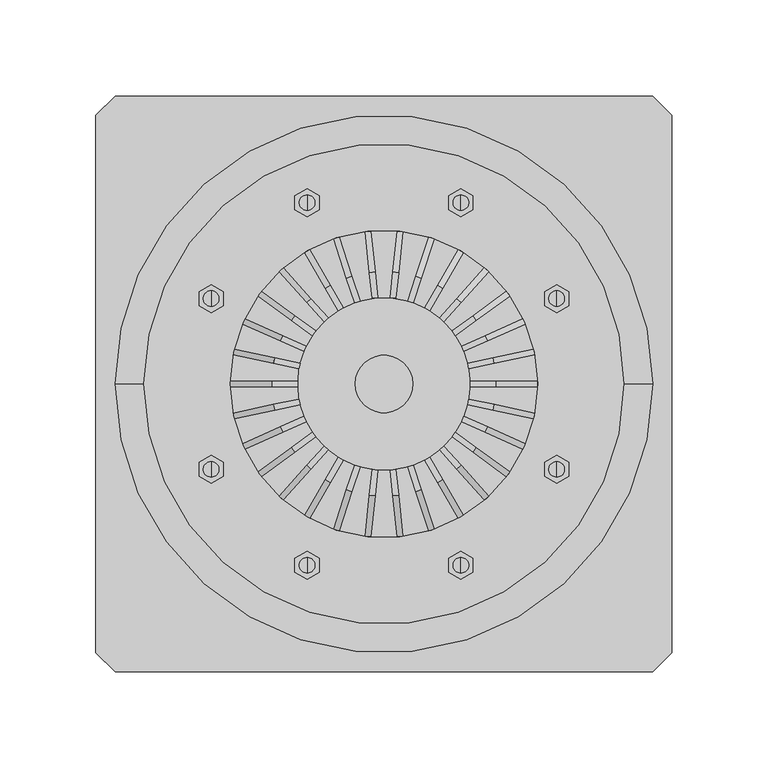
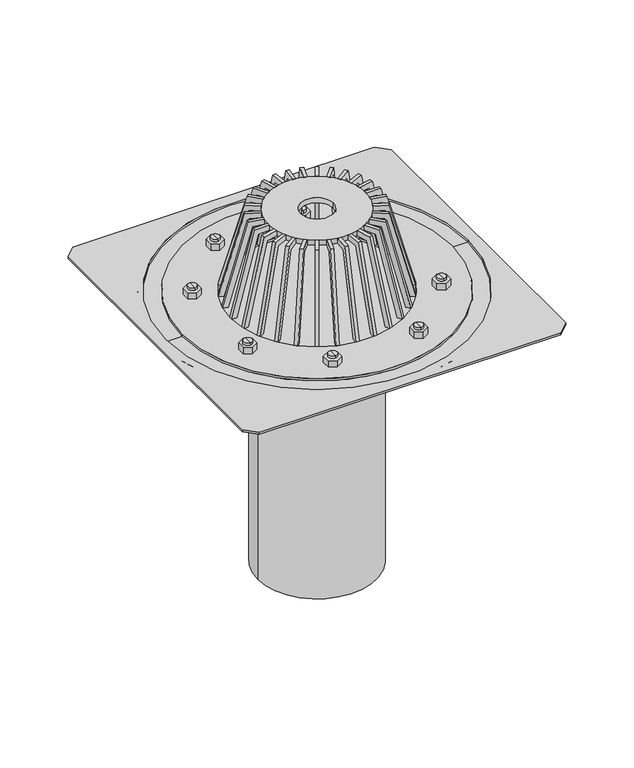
"""IFC4 building model written with IfcOpenShell, lengths in millimetres: sanitary terminal geometry, NLRS_52_PF_LB_trechter met bevestigingsflens, voor dakbedekkingsfolies_geb : d110 - 7L/s."""

from ifc_helpers import new_model, si_unit, point, frame, origin, origin_with_axes, origin_2d, place, context, project, spatial, polyline, circle_curve, trimmed, segment, composite_curve, outline, extrude, source, transform, mapped, element, save
from ifc_brep_helpers import plane_surface, cylinder_surface, revolved_surface, advanced_brep


def sanitary_terminal_2a380be2(model_context):
    return source(origin(), model_context, "Body", "SolidModel", [
        extrude(outline(polyline([(96.3281945, -40.8076438), (96.3281945, -48.1148134), (90.0, -51.7683982), (83.6718055, -48.1148134), (83.6718055, -40.8076438), (90.0, -37.154059), (96.3281945, -40.8076438)])), origin_with_axes(), (0.0, 0.0, 1.0), 6.2514432),
        advanced_brep(
        [(90.0, -40.3992708, 8.7618554), (90.0, -48.5231865, 8.7618554), (90.0, -48.5231865, 0.0), (90.0, -40.3992708, 0.0), (90.0, -44.4612286, 8.7618554), (90.0, -44.4612286, 0.0)],
        [
            (0, 1, circle_curve(frame((90.0, -44.4612286, 8.7618554), z_axis=(0.0, 0.0, -1.0), x_axis=(0.0, -1.0, 0.0)), 4.0619578)),
            (1, 2),
            (2, 3, circle_curve(frame((90.0, -44.4612286, 0.0), z_axis=(0.0, 0.0, 1.0), x_axis=(0.0, -1.0, 0.0)), 4.0619578)),
            (3, 0),
            (1, 0, circle_curve(frame((90.0, -44.4612286, 8.7618554), z_axis=(0.0, 0.0, -1.0), x_axis=(0.0, -1.0, 0.0)), 4.0619578)),
            (3, 2, circle_curve(frame((90.0, -44.4612286, 0.0), z_axis=(0.0, 0.0, 1.0), x_axis=(0.0, -1.0, 0.0)), 4.0619578)),
            (4, 1),
            (0, 4),
            (2, 5),
            (5, 3),
        ],
        [
            cylinder_surface(frame((90.0, -44.4612286, 15.0), z_axis=(0.0, 0.0, 1.0), x_axis=(0.0, -1.0, 0.0)), 4.0619578),
            plane_surface(frame((90.0, -44.4612286, 8.7618554), z_axis=(0.0, 0.0, 1.0), x_axis=(0.0, -1.0, 0.0))),
            plane_surface(frame((90.0, -44.4612286, 0.0), z_axis=(0.0, 0.0, -1.0), x_axis=(0.0, -1.0, 0.0))),
        ],
        [
            (0, [[1, 2, 3, 4]]),
            (0, [[5, -4, 6, -2]]),
            (1, [[7, -1, 8]]),
            (1, [[-8, -5, -7]]),
            (2, [[-3, 9, 10]]),
            (2, [[-6, -10, -9]]),
        ],
    ),
        extrude(outline(polyline([(96.3281945, 40.8076438), (90.0, 37.154059), (83.6718055, 40.8076438), (83.6718055, 48.1148134), (90.0, 51.7683982), (96.3281945, 48.1148134), (96.3281945, 40.8076438)])), origin_with_axes(), (0.0, 0.0, 1.0), 6.2514432),
        advanced_brep(
        [(90.0, 40.3992708, 0.0), (90.0, 48.5231865, 0.0), (90.0, 48.5231865, 8.7618554), (90.0, 40.3992708, 8.7618554), (90.0, 44.4612286, 8.7618554), (90.0, 44.4612286, 0.0)],
        [
            (0, 1, circle_curve(frame((90.0, 44.4612286, 0.0), z_axis=(0.0, 0.0, 1.0), x_axis=(0.0, 1.0, 0.0)), 4.0619578)),
            (1, 2),
            (2, 3, circle_curve(frame((90.0, 44.4612286, 8.7618554), z_axis=(0.0, 0.0, -1.0), x_axis=(0.0, 1.0, 0.0)), 4.0619578)),
            (3, 0),
            (1, 0, circle_curve(frame((90.0, 44.4612286, 0.0), z_axis=(0.0, 0.0, 1.0), x_axis=(0.0, 1.0, 0.0)), 4.0619578)),
            (3, 2, circle_curve(frame((90.0, 44.4612286, 8.7618554), z_axis=(0.0, 0.0, -1.0), x_axis=(0.0, 1.0, 0.0)), 4.0619578)),
            (2, 4),
            (4, 3),
            (5, 1),
            (0, 5),
        ],
        [
            cylinder_surface(frame((90.0, 44.4612286, 15.0), z_axis=(0.0, 0.0, -1.0), x_axis=(0.0, 1.0, 0.0)), 4.0619578),
            plane_surface(frame((90.0, 44.4612286, 8.7618554), z_axis=(0.0, 0.0, 1.0), x_axis=(0.0, 1.0, 0.0))),
            plane_surface(frame((90.0, 44.4612286, 0.0), z_axis=(0.0, 0.0, -1.0), x_axis=(0.0, 1.0, 0.0))),
        ],
        [
            (0, [[1, 2, 3, 4]]),
            (0, [[5, -4, 6, -2]]),
            (1, [[-3, 7, 8]]),
            (1, [[-6, -8, -7]]),
            (2, [[9, -1, 10]]),
            (2, [[-10, -5, -9]]),
        ],
    ),
        extrude(outline(polyline([(46.3417212, -90.7941171), (46.3417212, -98.1012867), (40.0135267, -101.7548715), (33.6853322, -98.1012867), (33.6853322, -90.7941171), (40.0135267, -87.1405323), (46.3417212, -90.7941171)])), origin_with_axes(), (0.0, 0.0, 1.0), 6.2514432),
        advanced_brep(
        [(40.0135267, -90.385744, 8.7618554), (40.0135267, -98.5096597, 8.7618554), (40.0135267, -98.5096597, 0.0), (40.0135267, -90.385744, 0.0), (40.0135267, -94.4477019, 8.7618554), (40.0135267, -94.4477019, 0.0)],
        [
            (0, 1, circle_curve(frame((40.0135267, -94.4477019, 8.7618554), z_axis=(0.0, 0.0, -1.0), x_axis=(0.0, -1.0, 0.0)), 4.0619578)),
            (1, 2),
            (2, 3, circle_curve(frame((40.0135267, -94.4477019, 0.0), z_axis=(0.0, 0.0, 1.0), x_axis=(0.0, -1.0, 0.0)), 4.0619578)),
            (3, 0),
            (1, 0, circle_curve(frame((40.0135267, -94.4477019, 8.7618554), z_axis=(0.0, 0.0, -1.0), x_axis=(0.0, -1.0, 0.0)), 4.0619578)),
            (3, 2, circle_curve(frame((40.0135267, -94.4477019, 0.0), z_axis=(0.0, 0.0, 1.0), x_axis=(0.0, -1.0, 0.0)), 4.0619578)),
            (4, 1),
            (0, 4),
            (2, 5),
            (5, 3),
        ],
        [
            cylinder_surface(frame((40.0135267, -94.4477019, 15.0), z_axis=(0.0, 0.0, 1.0), x_axis=(0.0, -1.0, 0.0)), 4.0619578),
            plane_surface(frame((40.0135267, -94.4477019, 8.7618554), z_axis=(0.0, 0.0, 1.0), x_axis=(0.0, -1.0, 0.0))),
            plane_surface(frame((40.0135267, -94.4477019, 0.0), z_axis=(0.0, 0.0, -1.0), x_axis=(0.0, -1.0, 0.0))),
        ],
        [
            (0, [[1, 2, 3, 4]]),
            (0, [[5, -4, 6, -2]]),
            (1, [[7, -1, 8]]),
            (1, [[-8, -5, -7]]),
            (2, [[-3, 9, 10]]),
            (2, [[-6, -10, -9]]),
        ],
    ),
        extrude(outline(polyline([(-46.3417212, -90.7941171), (-40.0135267, -87.1405323), (-33.6853322, -90.7941171), (-33.6853322, -98.1012867), (-40.0135267, -101.7548715), (-46.3417212, -98.1012867), (-46.3417212, -90.7941171)])), origin_with_axes(), (0.0, 0.0, 1.0), 6.2514432),
        advanced_brep(
        [(-40.0135267, -90.385744, 0.0), (-40.0135267, -98.5096597, 0.0), (-40.0135267, -98.5096597, 8.7618554), (-40.0135267, -90.385744, 8.7618554), (-40.0135267, -94.4477019, 8.7618554), (-40.0135267, -94.4477019, 0.0)],
        [
            (0, 1, circle_curve(frame((-40.0135267, -94.4477019, 0.0), z_axis=(0.0, 0.0, 1.0), x_axis=(0.0, -1.0, 0.0)), 4.0619578)),
            (1, 2),
            (2, 3, circle_curve(frame((-40.0135267, -94.4477019, 8.7618554), z_axis=(0.0, 0.0, -1.0), x_axis=(0.0, -1.0, 0.0)), 4.0619578)),
            (3, 0),
            (1, 0, circle_curve(frame((-40.0135267, -94.4477019, 0.0), z_axis=(0.0, 0.0, 1.0), x_axis=(0.0, -1.0, 0.0)), 4.0619578)),
            (3, 2, circle_curve(frame((-40.0135267, -94.4477019, 8.7618554), z_axis=(0.0, 0.0, -1.0), x_axis=(0.0, -1.0, 0.0)), 4.0619578)),
            (2, 4),
            (4, 3),
            (5, 1),
            (0, 5),
        ],
        [
            cylinder_surface(frame((-40.0135267, -94.4477019, 15.0), z_axis=(0.0, 0.0, -1.0), x_axis=(0.0, -1.0, 0.0)), 4.0619578),
            plane_surface(frame((-40.0135267, -94.4477019, 8.7618554), z_axis=(0.0, 0.0, 1.0), x_axis=(0.0, -1.0, 0.0))),
            plane_surface(frame((-40.0135267, -94.4477019, 0.0), z_axis=(0.0, 0.0, -1.0), x_axis=(0.0, -1.0, 0.0))),
        ],
        [
            (0, [[1, 2, 3, 4]]),
            (0, [[5, -4, 6, -2]]),
            (1, [[-3, 7, 8]]),
            (1, [[-6, -8, -7]]),
            (2, [[9, -1, 10]]),
            (2, [[-10, -5, -9]]),
        ],
    ),
        extrude(outline(polyline([(-96.3281945, -40.8076438), (-90.0, -37.154059), (-83.6718055, -40.8076438), (-83.6718055, -48.1148134), (-90.0, -51.7683982), (-96.3281945, -48.1148134), (-96.3281945, -40.8076438)])), origin_with_axes(), (0.0, 0.0, 1.0), 6.2514432),
        advanced_brep(
        [(-90.0, -40.3992708, 0.0), (-90.0, -48.5231865, 0.0), (-90.0, -48.5231865, 8.7618554), (-90.0, -40.3992708, 8.7618554), (-90.0, -44.4612286, 8.7618554), (-90.0, -44.4612286, 0.0)],
        [
            (0, 1, circle_curve(frame((-90.0, -44.4612286, 0.0), z_axis=(0.0, 0.0, 1.0), x_axis=(0.0, -1.0, 0.0)), 4.0619578)),
            (1, 2),
            (2, 3, circle_curve(frame((-90.0, -44.4612286, 8.7618554), z_axis=(0.0, 0.0, -1.0), x_axis=(0.0, -1.0, 0.0)), 4.0619578)),
            (3, 0),
            (1, 0, circle_curve(frame((-90.0, -44.4612286, 0.0), z_axis=(0.0, 0.0, 1.0), x_axis=(0.0, -1.0, 0.0)), 4.0619578)),
            (3, 2, circle_curve(frame((-90.0, -44.4612286, 8.7618554), z_axis=(0.0, 0.0, -1.0), x_axis=(0.0, -1.0, 0.0)), 4.0619578)),
            (2, 4),
            (4, 3),
            (5, 1),
            (0, 5),
        ],
        [
            cylinder_surface(frame((-90.0, -44.4612286, 15.0), z_axis=(0.0, 0.0, -1.0), x_axis=(0.0, -1.0, 0.0)), 4.0619578),
            plane_surface(frame((-90.0, -44.4612286, 8.7618554), z_axis=(0.0, 0.0, 1.0), x_axis=(0.0, -1.0, 0.0))),
            plane_surface(frame((-90.0, -44.4612286, 0.0), z_axis=(0.0, 0.0, -1.0), x_axis=(0.0, -1.0, 0.0))),
        ],
        [
            (0, [[1, 2, 3, 4]]),
            (0, [[5, -4, 6, -2]]),
            (1, [[-3, 7, 8]]),
            (1, [[-6, -8, -7]]),
            (2, [[9, -1, 10]]),
            (2, [[-10, -5, -9]]),
        ],
    ),
        extrude(outline(polyline([(-96.3281945, 40.8076438), (-96.3281945, 48.1148134), (-90.0, 51.7683982), (-83.6718055, 48.1148134), (-83.6718055, 40.8076438), (-90.0, 37.154059), (-96.3281945, 40.8076438)])), origin_with_axes(), (0.0, 0.0, 1.0), 6.2514432),
        advanced_brep(
        [(-90.0, 40.3992708, 8.7618554), (-90.0, 48.5231865, 8.7618554), (-90.0, 48.5231865, 0.0), (-90.0, 40.3992708, 0.0), (-90.0, 44.4612286, 8.7618554), (-90.0, 44.4612286, 0.0)],
        [
            (0, 1, circle_curve(frame((-90.0, 44.4612286, 8.7618554), z_axis=(0.0, 0.0, -1.0), x_axis=(0.0, 1.0, 0.0)), 4.0619578)),
            (1, 2),
            (2, 3, circle_curve(frame((-90.0, 44.4612286, 0.0), z_axis=(0.0, 0.0, 1.0), x_axis=(0.0, 1.0, 0.0)), 4.0619578)),
            (3, 0),
            (1, 0, circle_curve(frame((-90.0, 44.4612286, 8.7618554), z_axis=(0.0, 0.0, -1.0), x_axis=(0.0, 1.0, 0.0)), 4.0619578)),
            (3, 2, circle_curve(frame((-90.0, 44.4612286, 0.0), z_axis=(0.0, 0.0, 1.0), x_axis=(0.0, 1.0, 0.0)), 4.0619578)),
            (4, 1),
            (0, 4),
            (2, 5),
            (5, 3),
        ],
        [
            cylinder_surface(frame((-90.0, 44.4612286, 15.0), z_axis=(0.0, 0.0, 1.0), x_axis=(0.0, 1.0, 0.0)), 4.0619578),
            plane_surface(frame((-90.0, 44.4612286, 8.7618554), z_axis=(0.0, 0.0, 1.0), x_axis=(0.0, 1.0, 0.0))),
            plane_surface(frame((-90.0, 44.4612286, 0.0), z_axis=(0.0, 0.0, -1.0), x_axis=(0.0, 1.0, 0.0))),
        ],
        [
            (0, [[1, 2, 3, 4]]),
            (0, [[5, -4, 6, -2]]),
            (1, [[7, -1, 8]]),
            (1, [[-8, -5, -7]]),
            (2, [[-3, 9, 10]]),
            (2, [[-6, -10, -9]]),
        ],
    ),
        extrude(outline(polyline([(-46.3417212, 90.7941171), (-46.3417212, 98.1012867), (-40.0135267, 101.7548715), (-33.6853322, 98.1012867), (-33.6853322, 90.7941171), (-40.0135267, 87.1405323), (-46.3417212, 90.7941171)])), origin_with_axes(), (0.0, 0.0, 1.0), 6.2514432),
        advanced_brep(
        [(-40.0135267, 90.385744, 8.7618554), (-40.0135267, 98.5096597, 8.7618554), (-40.0135267, 98.5096597, 0.0), (-40.0135267, 90.385744, 0.0), (-40.0135267, 94.4477019, 8.7618554), (-40.0135267, 94.4477019, 0.0)],
        [
            (0, 1, circle_curve(frame((-40.0135267, 94.4477019, 8.7618554), z_axis=(0.0, 0.0, -1.0), x_axis=(0.0, 1.0, 0.0)), 4.0619578)),
            (1, 2),
            (2, 3, circle_curve(frame((-40.0135267, 94.4477019, 0.0), z_axis=(0.0, 0.0, 1.0), x_axis=(0.0, 1.0, 0.0)), 4.0619578)),
            (3, 0),
            (1, 0, circle_curve(frame((-40.0135267, 94.4477019, 8.7618554), z_axis=(0.0, 0.0, -1.0), x_axis=(0.0, 1.0, 0.0)), 4.0619578)),
            (3, 2, circle_curve(frame((-40.0135267, 94.4477019, 0.0), z_axis=(0.0, 0.0, 1.0), x_axis=(0.0, 1.0, 0.0)), 4.0619578)),
            (4, 1),
            (0, 4),
            (2, 5),
            (5, 3),
        ],
        [
            cylinder_surface(frame((-40.0135267, 94.4477019, 15.0), z_axis=(0.0, 0.0, 1.0), x_axis=(0.0, 1.0, 0.0)), 4.0619578),
            plane_surface(frame((-40.0135267, 94.4477019, 8.7618554), z_axis=(0.0, 0.0, 1.0), x_axis=(0.0, 1.0, 0.0))),
            plane_surface(frame((-40.0135267, 94.4477019, 0.0), z_axis=(0.0, 0.0, -1.0), x_axis=(0.0, 1.0, 0.0))),
        ],
        [
            (0, [[1, 2, 3, 4]]),
            (0, [[5, -4, 6, -2]]),
            (1, [[7, -1, 8]]),
            (1, [[-8, -5, -7]]),
            (2, [[-3, 9, 10]]),
            (2, [[-6, -10, -9]]),
        ],
    ),
        advanced_brep(
        [(-125.0, 0.0, 0.0), (125.0, 0.0, 0.0), (-80.0, 0.0, 0.0), (80.0, 0.0, 0.0), (46.3417212, 98.1012867, 0.0), (46.3417212, 90.7941171, 0.0), (40.0135267, 87.1405323, 0.0), (33.6853322, 90.7941171, 0.0), (33.6853322, 98.1012867, 0.0), (40.0135267, 101.7548715, 0.0), (-125.0, 0.0, -2.0), (125.0, 0.0, -2.0), (-80.0, 0.0, -2.0), (80.0, 0.0, -2.0), (46.3417212, 90.7941171, 6.2514432), (46.3417212, 98.1012867, 6.2514432), (40.0135267, 101.7548715, 6.2514432), (33.6853322, 98.1012867, 6.2514432), (33.6853322, 90.7941171, 6.2514432), (40.0135267, 87.1405323, 6.2514432), (40.0135267, 98.5096597, 6.2514432), (40.0135267, 90.385744, 6.2514432), (40.0135267, 98.5096597, 8.7618554), (40.0135267, 90.385744, 8.7618554), (40.0135267, 94.4477019, 8.7618554)],
        [
            (0, 1, circle_curve(origin_with_axes(), 125.0)),
            (1, 0, circle_curve(origin_with_axes(), 125.0)),
            (2, 3, circle_curve(frame((0.0, 0.0, 0.0), z_axis=(0.0, 0.0, -1.0), x_axis=(1.0, 0.0, 0.0)), 80.0)),
            (3, 2, circle_curve(frame((0.0, 0.0, 0.0), z_axis=(0.0, 0.0, -1.0), x_axis=(1.0, 0.0, 0.0)), 80.0)),
            (4, 5),
            (5, 6),
            (6, 7),
            (7, 8),
            (8, 9),
            (9, 4),
            (10, 11, circle_curve(frame((0.0, 0.0, -2.0), z_axis=(0.0, 0.0, -1.0), x_axis=(1.0, 0.0, 0.0)), 125.0)),
            (11, 10, circle_curve(frame((0.0, 0.0, -2.0), z_axis=(0.0, 0.0, -1.0), x_axis=(1.0, 0.0, 0.0)), 125.0)),
            (12, 13, circle_curve(frame((0.0, 0.0, -2.0), z_axis=(0.0, 0.0, 1.0), x_axis=(1.0, 0.0, 0.0)), 80.0)),
            (13, 12, circle_curve(frame((0.0, 0.0, -2.0), z_axis=(0.0, 0.0, 1.0), x_axis=(1.0, 0.0, 0.0)), 80.0)),
            (0, 10),
            (11, 1),
            (2, 12),
            (13, 3),
            (14, 15),
            (15, 16),
            (16, 17),
            (17, 18),
            (18, 19),
            (19, 14),
            (20, 21, circle_curve(frame((40.0135267, 94.4477019, 6.2514432), z_axis=(0.0, 0.0, -1.0), x_axis=(0.0, 1.0, 0.0)), 4.0619578)),
            (21, 20, circle_curve(frame((40.0135267, 94.4477019, 6.2514432), z_axis=(0.0, 0.0, -1.0), x_axis=(0.0, 1.0, 0.0)), 4.0619578)),
            (14, 5),
            (4, 15),
            (9, 16),
            (8, 17),
            (7, 18),
            (6, 19),
            (22, 23, circle_curve(frame((40.0135267, 94.4477019, 8.7618554), z_axis=(0.0, 0.0, -1.0), x_axis=(0.0, 1.0, 0.0)), 4.0619578)),
            (23, 21),
            (20, 22),
            (23, 22, circle_curve(frame((40.0135267, 94.4477019, 8.7618554), z_axis=(0.0, 0.0, -1.0), x_axis=(0.0, 1.0, 0.0)), 4.0619578)),
            (22, 24),
            (24, 23),
        ],
        [
            plane_surface(frame((125.0, 0.0, 0.0), z_axis=(0.0, 0.0, 1.0), x_axis=(0.0, 1.0, 0.0))),
            plane_surface(frame((125.0, 0.0, -2.0), z_axis=(0.0, 0.0, -1.0), x_axis=(0.0, -1.0, 0.0))),
            cylinder_surface(frame((0.0, 0.0, -2.0), z_axis=(0.0, 0.0, 1.0), x_axis=(1.0, 0.0, 0.0)), 125.0),
            revolved_surface(polyline([(80.0, 0.0, -2.0), (80.0, 0.0, 0.0)]), (0.0, 0.0, 0.0), (0.0, 0.0, -1.0)),
            plane_surface(frame((46.3417212, 90.7941171, 6.2514432), z_axis=(0.0, 0.0, 1.0), x_axis=(0.0, 1.0, 0.0))),
            plane_surface(frame((46.3417212, 90.7941171, 6.2514432), z_axis=(1.0, 0.0, 0.0), x_axis=(0.0, 0.0, -1.0))),
            plane_surface(frame((46.3417212, 98.1012867, 6.2514432), z_axis=(0.5000000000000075, 0.8660254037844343, 0.0), x_axis=(0.0, 0.0, -1.0))),
            plane_surface(frame((40.0135267, 101.7548715, 6.2514432), z_axis=(-0.4999999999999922, 0.8660254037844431, 0.0), x_axis=(0.0, 0.0, -1.0))),
            plane_surface(frame((33.6853322, 98.1012867, 6.2514432), z_axis=(-1.0, 0.0, 0.0), x_axis=(0.0, 0.0, -1.0))),
            plane_surface(frame((33.6853322, 90.7941171, 6.2514432), z_axis=(-0.5000000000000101, -0.8660254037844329, 0.0), x_axis=(0.0, 0.0, -1.0))),
            plane_surface(frame((40.0135267, 87.1405323, 6.2514432), z_axis=(0.49999999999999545, -0.8660254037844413, 0.0), x_axis=(0.0, 0.0, -1.0))),
            cylinder_surface(frame((40.0135267, 94.4477019, 15.0), z_axis=(0.0, 0.0, -1.0), x_axis=(0.0, 1.0, 0.0)), 4.0619578),
            plane_surface(frame((40.0135267, 94.4477019, 8.7618554), z_axis=(0.0, 0.0, 1.0), x_axis=(0.0, 1.0, 0.0))),
        ],
        [
            (0, [[1, 2], [3, 4], [5, 6, 7, 8, 9, 10]]),
            (1, [[11, 12], [13, 14]]),
            (2, [[-1, 15, -12, 16]]),
            (2, [[-2, -16, -11, -15]]),
            (3, [[-3, 17, -14, 18]]),
            (3, [[-4, -18, -13, -17]]),
            (4, [[19, 20, 21, 22, 23, 24], [25, 26]]),
            (5, [[-19, 27, -5, 28]]),
            (6, [[-20, -28, -10, 29]]),
            (7, [[-21, -29, -9, 30]]),
            (8, [[-22, -30, -8, 31]]),
            (9, [[-23, -31, -7, 32]]),
            (10, [[-24, -32, -6, -27]]),
            (11, [[33, 34, -25, 35]]),
            (11, [[36, -35, -26, -34]]),
            (12, [[-33, 37, 38]]),
            (12, [[-36, -38, -37]]),
        ],
    ),
        advanced_brep(
        [(0.0, 0.0, -265.0), (-55.0, 0.0, -265.0), (55.0, 0.0, -265.0), (55.0, 0.0, -59.7374116), (-55.0, 0.0, -59.7374116), (-62.5, 0.0, -46.7470306), (62.5, 0.0, -46.7470306), (90.0, 90.0, -46.7470306), (90.0, -90.0, -46.7470306), (-90.0, -90.0, -46.7470306), (-90.0, 90.0, -46.7470306), (90.0, 90.0, -4.5968329), (-90.0, 90.0, -4.5968329), (-90.0, -90.0, -4.5968329), (90.0, -90.0, -4.5968329)],
        [
            (0, 1),
            (1, 2, circle_curve(frame((0.0, 0.0, -265.0), z_axis=(0.0, 0.0, -1.0), x_axis=(-1.0, 0.0, 0.0)), 55.0)),
            (2, 0),
            (2, 1, circle_curve(frame((0.0, 0.0, -265.0), z_axis=(0.0, 0.0, -1.0), x_axis=(-1.0, 0.0, 0.0)), 55.0)),
            (3, 4, circle_curve(frame((0.0, 0.0, -59.7374116), z_axis=(0.0, 0.0, 1.0), x_axis=(-1.0, 0.0, 0.0)), 55.0)),
            (4, 5),
            (5, 6, circle_curve(frame((0.0, 0.0, -46.7470306), z_axis=(0.0, 0.0, -1.0), x_axis=(-1.0, 0.0, 0.0)), 62.5)),
            (6, 3),
            (4, 3, circle_curve(frame((0.0, 0.0, -59.7374116), z_axis=(0.0, 0.0, 1.0), x_axis=(-1.0, 0.0, 0.0)), 55.0)),
            (6, 5, circle_curve(frame((0.0, 0.0, -46.7470306), z_axis=(0.0, 0.0, -1.0), x_axis=(-1.0, 0.0, 0.0)), 62.5)),
            (1, 4),
            (3, 2),
            (7, 8),
            (8, 9),
            (9, 10),
            (10, 7),
            (11, 12),
            (12, 13),
            (13, 14),
            (14, 11),
            (10, 12),
            (11, 7),
            (9, 13),
            (8, 14),
        ],
        [
            plane_surface(frame((0.0, 0.0, -265.0), z_axis=(0.0, 0.0, -1.0), x_axis=(-1.0, 0.0, 0.0))),
            revolved_surface(polyline([(-62.5, 0.0, -46.7470306), (-55.0, 0.0, -59.7374116)]), (0.0, 0.0, -1.0194243), (0.0, 0.0, -1.0)),
            cylinder_surface(frame((0.0, 0.0, -1.0194243), z_axis=(0.0, 0.0, -1.0), x_axis=(-1.0, 0.0, 0.0)), 55.0),
            plane_surface(frame((-90.0, 90.0, -46.7470306), z_axis=(0.0, 0.0, -1.0), x_axis=(1.0, 0.0, 0.0))),
            plane_surface(frame((-90.0, 90.0, -4.5968329), z_axis=(0.0, 0.0, 1.0), x_axis=(-1.0, 0.0, 0.0))),
            plane_surface(frame((90.0, 90.0, -4.5968329), z_axis=(0.0, 1.0, 0.0), x_axis=(0.0, 0.0, -1.0))),
            plane_surface(frame((-90.0, 90.0, -4.5968329), z_axis=(-1.0, 0.0, 0.0), x_axis=(0.0, 0.0, -1.0))),
            plane_surface(frame((-90.0, -90.0, -4.5968329), z_axis=(0.0, -1.0, 0.0), x_axis=(0.0, 0.0, -1.0))),
            plane_surface(frame((90.0, -90.0, -4.5968329), z_axis=(1.0, 0.0, 0.0), x_axis=(0.0, 0.0, -1.0))),
        ],
        [
            (0, [[1, 2, 3]]),
            (0, [[-1, -3, 4]]),
            (1, [[5, 6, 7, 8]]),
            (1, [[-6, 9, -8, 10]]),
            (2, [[-2, 11, -5, 12]]),
            (2, [[-4, -12, -9, -11]]),
            (3, [[13, 14, 15, 16], [-7, -10]]),
            (4, [[17, 18, 19, 20]]),
            (5, [[-16, 21, -17, 22]]),
            (6, [[-15, 23, -18, -21]]),
            (7, [[-14, 24, -19, -23]]),
            (8, [[-13, -22, -20, -24]]),
        ],
    ),
        extrude(outline(polyline([(-82.9501665, 1e-07), (-0.128072, 0.0), (-1.2940953, -4.3516578), (-78.9398088, -4.3516578), (-81.6343907, -14.4079744), (-86.4640198, -13.1138792), (-82.9501665, 1e-07)])), frame((-26.1400137, 75.5965877, -0.1237081), z_axis=(0.9510565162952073, 0.3090169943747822, 0.0), x_axis=(-0.0799794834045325, 0.24615153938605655, -0.965925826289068)), (0.0, 0.0, 1.0), 3.0),
        extrude(outline(polyline([(-82.9501665, 0.0), (-0.1280721, 0.0), (-1.2940952, -4.3516578), (-78.9398088, -4.3516578), (-81.6343907, -14.4079744), (-86.4640198, -13.1138792), (-82.9501665, 0.0)])), frame((-41.286206, 68.5098065, -0.1237081), z_axis=(0.8660254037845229, 0.4999999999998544, 0.0), x_axis=(-0.12940952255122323, 0.2241438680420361, -0.965925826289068)), (0.0, 0.0, 1.0), 3.0),
        extrude(outline(polyline([(-82.9501665, 0.0), (-0.1280721, 0.0), (-1.2940952, -4.3516578), (-78.9398088, -4.3516578), (-81.6343907, -14.4079744), (-86.4640198, -13.1138792), (-82.9501665, 0.0)])), frame((-54.6279931, 58.4288179, -0.1237081), z_axis=(0.743144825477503, 0.6691306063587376, 0.0), x_axis=(-0.1731837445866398, 0.19234003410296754, -0.9659258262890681)), (0.0, 0.0, 1.0), 3.0),
        extrude(outline(polyline([(-82.9501665, 0.0), (-0.1280721, 0.0), (-1.2940953, -4.3516579), (-78.9398088, -4.3516578), (-81.6343907, -14.4079745), (-86.4640198, -13.1138793), (-82.9501665, 0.0)])), frame((-65.5822747, 45.7942097, -0.1237081), z_axis=(0.5877852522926, 0.8090169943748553, 0.0), x_axis=(-0.20938900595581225, 0.1521300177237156, -0.9659258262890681)), (0.0, 0.0, 1.0), 3.0),
        extrude(outline(polyline([(-82.9501665, 0.0), (-0.1280721, -1e-07), (-1.2940952, -4.3516578), (-78.9398088, -4.3516578), (-81.6343907, -14.4079745), (-86.4640198, -13.1138793), (-82.9501665, 0.0)])), frame((-73.6702962, 31.1581747, -0.1237081), z_axis=(0.4067366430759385, 0.9135454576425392, 0.0), x_axis=(-0.23644296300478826, 0.10527118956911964, -0.9659258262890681)), (0.0, 0.0, 1.0), 3.0),
        extrude(outline(polyline([(-82.9501665, 0.0), (-0.128072, 0.0), (-1.2940952, -4.3516577), (-78.9398088, -4.3516577), (-81.6343907, -14.4079744), (-86.4640198, -13.1138791), (-82.9501665, 0.0)])), frame((-78.5385722, 15.160378, -0.1237081), z_axis=(0.2079116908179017, 0.9781476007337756, 0.0), x_axis=(-0.25316322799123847, 0.05381150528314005, -0.965925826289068)), (0.0, 0.0, 1.0), 3.0),
        extrude(outline(polyline([(80.0, -58.5052529), (0.0, -79.9411883), (0.0, -75.4360207), (75.0, -55.3398312), (75.0, -44.9287662), (80.0, -44.9287662), (80.0, -58.5052529)])), frame((0.0, -1.5, 0.0), z_axis=(0.0, 1.0, 0.0), x_axis=(0.0, 0.0, 1.0)), (0.0, 0.0, 1.0), 3.0),
        extrude(outline(polyline([(-82.9501665, 0.0), (-0.1280721, -1e-07), (-1.2940952, -4.3516578), (-78.9398088, -4.3516578), (-81.6343907, -14.4079745), (-86.4640198, -13.1138792), (-82.9501665, 0.0)])), frame((-77.9148372, -18.0948208, -0.1237081), z_axis=(-0.2079116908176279, 0.9781476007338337, 0.0), x_axis=(-0.2531632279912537, -0.053811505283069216, -0.965925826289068)), (0.0, 0.0, 1.0), 3.0),
        extrude(outline(polyline([(-82.9501665, 0.0), (-0.128072, 0.0), (-1.2940952, -4.3516577), (-78.9398088, -4.3516577), (-81.6343907, -14.4079744), (-86.4640198, -13.1138792), (-82.9501665, 0.0)])), frame((-72.4500862, -33.8988111, -0.1237081), z_axis=(-0.40673664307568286, 0.9135454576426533, 0.0), x_axis=(-0.2364429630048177, -0.10527118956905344, -0.9659258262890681)), (0.0, 0.0, 1.0), 3.0),
        extrude(outline(polyline([(-82.9501665, 0.0), (-0.1280721, 0.0), (-1.2940952, -4.3516578), (-78.9398087, -4.3516577), (-81.6343907, -14.4079744), (-86.4640198, -13.1138791), (-82.9501665, 0.0)])), frame((-63.8189189, -48.2212606, -0.1237081), z_axis=(-0.5877852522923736, 0.80901699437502, 0.0), x_axis=(-0.20938900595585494, -0.15213001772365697, -0.965925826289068)), (0.0, 0.0, 1.0), 3.0),
        extrude(outline(polyline([(-82.9501665, 0.0), (-0.128072, 1e-07), (-1.2940952, -4.3516578), (-78.9398088, -4.3516578), (-81.6343907, -14.4079744), (-86.4640198, -13.1138792), (-82.9501665, 0.0)])), frame((-52.3985586, -60.4362097, -0.1237081), z_axis=(-0.7431448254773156, 0.6691306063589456, 0.0), x_axis=(-0.17318374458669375, -0.19234003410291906, -0.965925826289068)), (0.0, 0.0, 1.0), 3.0),
        extrude(outline(polyline([(-82.9501665, 0.0), (-0.1280721, 0.0), (-1.2940952, -4.3516578), (-78.9398088, -4.3516578), (-81.6343907, -14.4079744), (-86.4640198, -13.1138792), (-82.9501665, 0.0)])), frame((-38.6881298, -70.0098065, -0.1237081), z_axis=(-0.8660254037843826, 0.500000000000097, 0.0), x_axis=(-0.12940952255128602, -0.22414386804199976, -0.965925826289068)), (0.0, 0.0, 1.0), 3.0),
        extrude(outline(polyline([(-82.9501665, 0.0), (-0.128072, 0.0), (-1.2940952, -4.3516578), (-78.9398088, -4.3516578), (-81.6343907, -14.4079744), (-86.4640198, -13.1138792), (-82.9501665, 0.0)])), frame((-23.2868441, -76.5236387, -0.1237081), z_axis=(-0.9510565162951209, 0.30901699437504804, 0.0), x_axis=(-0.07997948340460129, -0.24615153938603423, -0.965925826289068)), (0.0, 0.0, 1.0), 3.0),
        extrude(outline(polyline([(-82.9501665, 0.0), (-0.1280721, 0.0), (-1.2940952, -4.3516578), (-78.9398088, -4.3516578), (-81.6343907, -14.4079744), (-86.4640198, -13.1138792), (-82.9501665, 0.0)])), frame((-6.8678116, -79.6930207, -0.1237081), z_axis=(-0.994521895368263, 0.10452846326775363, 0.0), x_axis=(-0.02705395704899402, -0.25740120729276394, -0.965925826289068)), (0.0, 0.0, 1.0), 3.0),
        extrude(outline(polyline([(82.9501665, 0.0), (86.4640198, -13.1138792), (81.6343907, -14.4079744), (78.9398088, -4.3516578), (1.2940952, -4.3516578), (0.1280721, 0.0), (82.9501665, 0.0)])), frame((6.8678116, -79.6930207, -0.1237081), z_axis=(0.9945218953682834, 0.10452846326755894, 0.0), x_axis=(-0.027053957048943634, 0.2574012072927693, 0.965925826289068)), (0.0, 0.0, 1.0), 3.0),
        extrude(outline(polyline([(82.9501665, 0.0), (86.4640198, -13.1138792), (81.6343907, -14.4079744), (78.9398088, -4.3516578), (1.2940952, -4.3516578), (0.128072, 0.0), (82.9501665, 0.0)])), frame((23.2868441, -76.5236387, -0.1237081), z_axis=(0.9510565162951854, 0.30901699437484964, 0.0), x_axis=(-0.07997948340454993, 0.24615153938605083, 0.965925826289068)), (0.0, 0.0, 1.0), 3.0),
        extrude(outline(polyline([(82.9501665, 0.0), (86.4640198, -13.1138792), (81.6343907, -14.4079744), (78.9398088, -4.3516578), (1.2940952, -4.3516578), (0.1280721, 0.0), (82.9501665, 0.0)])), frame((38.6881298, -70.0098065, -0.1237081), z_axis=(0.8660254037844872, 0.49999999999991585, 0.0), x_axis=(-0.12940952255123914, 0.22414386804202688, 0.9659258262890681)), (0.0, 0.0, 1.0), 3.0),
        extrude(outline(polyline([(82.9501665, 0.0), (86.4640198, -13.1138792), (81.6343907, -14.4079744), (78.9398088, -4.3516578), (1.2940952, -4.3516578), (0.128072, 1e-07), (82.9501665, 0.0)])), frame((52.3985586, -60.4362097, -0.1237081), z_axis=(0.7431448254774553, 0.6691306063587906, 0.0), x_axis=(-0.17318374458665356, 0.19234003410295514, 0.9659258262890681)), (0.0, 0.0, 1.0), 3.0),
        extrude(outline(polyline([(82.9501665, 0.0), (86.4640198, -13.1138791), (81.6343907, -14.4079744), (78.9398087, -4.3516577), (1.2940952, -4.3516578), (0.1280721, 0.0), (82.9501665, 0.0)])), frame((63.8189189, -48.2212606, -0.1237081), z_axis=(0.5877852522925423, 0.8090169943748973, 0.0), x_axis=(-0.2093890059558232, 0.1521300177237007, 0.965925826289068)), (0.0, 0.0, 1.0), 3.0),
        extrude(outline(polyline([(82.9501665, 0.0), (86.4640198, -13.1138792), (81.6343907, -14.4079744), (78.9398088, -4.3516577), (1.2940952, -4.3516577), (0.128072, 0.0), (82.9501665, 0.0)])), frame((72.4500862, -33.8988111, -0.1237081), z_axis=(0.40673664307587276, 0.9135454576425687, 0.0), x_axis=(-0.2364429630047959, 0.10527118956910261, 0.965925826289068)), (0.0, 0.0, 1.0), 3.0),
        extrude(outline(polyline([(82.9501665, 0.0), (86.4640198, -13.1138792), (81.6343907, -14.4079745), (78.9398088, -4.3516578), (1.2940952, -4.3516578), (0.1280721, -1e-07), (82.9501665, 0.0)])), frame((77.9148372, -18.0948208, -0.1237081), z_axis=(0.20791169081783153, 0.9781476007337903, 0.0), x_axis=(-0.25316322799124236, 0.05381150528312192, 0.965925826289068)), (0.0, 0.0, 1.0), 3.0),
        extrude(outline(polyline([(80.0, 58.5052529), (80.0, 44.9287662), (75.0, 44.9287662), (75.0, 55.3398312), (0.0, 75.4360207), (0.0, 79.9411883), (80.0, 58.5052529)])), frame((0.0, -1.5, 0.0), z_axis=(0.0, 1.0, 0.0), x_axis=(0.0, 0.0, 1.0)), (0.0, 0.0, 1.0), 3.0),
        extrude(outline(polyline([(82.9501665, 0.0), (86.4640198, -13.1138791), (81.6343907, -14.4079744), (78.9398088, -4.3516577), (1.2940952, -4.3516577), (0.128072, 0.0), (82.9501665, 0.0)])), frame((78.5385722, 15.160378, -0.1237081), z_axis=(-0.20791169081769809, 0.9781476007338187, 0.0), x_axis=(-0.2531632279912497, -0.05381150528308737, 0.965925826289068)), (0.0, 0.0, 1.0), 3.0),
        extrude(outline(polyline([(82.9501665, 0.0), (86.4640198, -13.1138793), (81.6343907, -14.4079745), (78.9398088, -4.3516578), (1.2940952, -4.3516578), (0.1280721, -1e-07), (82.9501665, 0.0)])), frame((73.6702962, 31.1581747, -0.1237081), z_axis=(-0.4067366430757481, 0.9135454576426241, 0.0), x_axis=(-0.2364429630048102, -0.10527118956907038, 0.9659258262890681)), (0.0, 0.0, 1.0), 3.0),
        extrude(outline(polyline([(82.9501665, 0.0), (86.4640198, -13.1138793), (81.6343907, -14.4079745), (78.9398088, -4.3516578), (1.2940953, -4.3516579), (0.1280721, 0.0), (82.9501665, 0.0)])), frame((65.5822747, 45.7942097, -0.1237081), z_axis=(-0.5877852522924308, 0.8090169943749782, 0.0), x_axis=(-0.2093890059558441, -0.1521300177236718, 0.9659258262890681)), (0.0, 0.0, 1.0), 3.0),
        extrude(outline(polyline([(82.9501665, 0.0), (86.4640198, -13.1138792), (81.6343907, -14.4079744), (78.9398088, -4.3516578), (1.2940952, -4.3516578), (0.1280721, 0.0), (82.9501665, 0.0)])), frame((54.6279931, 58.4288179, -0.1237081), z_axis=(-0.7431448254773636, 0.6691306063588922, 0.0), x_axis=(-0.1731837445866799, -0.1923400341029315, 0.965925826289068)), (0.0, 0.0, 1.0), 3.0),
        extrude(outline(polyline([(82.9501665, 0.0), (86.4640198, -13.1138792), (81.6343907, -14.4079744), (78.9398088, -4.3516578), (1.2940952, -4.3516578), (0.1280721, 0.0), (82.9501665, 0.0)])), frame((41.286206, 68.5098065, -0.1237081), z_axis=(-0.8660254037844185, 0.5000000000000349, 0.0), x_axis=(-0.12940952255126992, -0.2241438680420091, 0.965925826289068)), (0.0, 0.0, 1.0), 3.0),
        extrude(outline(polyline([(82.9501665, 1e-07), (86.4640198, -13.1138792), (81.6343907, -14.4079744), (78.9398088, -4.3516578), (1.2940953, -4.3516578), (0.128072, 0.0), (82.9501665, 1e-07)])), frame((26.1400137, 75.5965877, -0.1237081), z_axis=(-0.9510565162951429, 0.30901699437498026, 0.0), x_axis=(-0.07997948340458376, -0.24615153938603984, 0.965925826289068)), (0.0, 0.0, 1.0), 3.0),
        extrude(outline(polyline([(82.9501665, 0.0), (86.4640198, -13.1138792), (81.6343907, -14.4079744), (78.9398087, -4.3516577), (1.2940952, -4.3516577), (0.1280721, 0.0), (82.9501665, 0.0)])), frame((9.8513773, 79.3794353, -0.1237081), z_axis=(-0.9945218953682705, 0.10452846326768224, 0.0), x_axis=(-0.027053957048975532, -0.2574012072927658, 0.965925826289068)), (0.0, 0.0, 1.0), 3.0),
        extrude(outline(polyline([(140.0, 150.0), (150.0, 140.0), (150.0, -140.0), (140.0, -150.0), (-140.0, -150.0), (-150.0, -140.0), (-150.0, 140.0), (-140.0, 150.0), (140.0, 150.0)]), holes=[composite_curve([segment(trimmed(circle_curve(origin_2d(), 140.0), [point((-140.0, 0.0))], [point((140.0, 0.0))], True, "CARTESIAN"), True, "CONTINUOUS"), segment(trimmed(circle_curve(origin_2d(), 140.0), [point((140.0, 0.0))], [point((-140.0, 0.0))], True, "CARTESIAN"), True, "CONTINUOUS")], self_intersect=False)]), frame((0.0, 0.0, -2.0), z_axis=(0.0, 0.0, 1.0), x_axis=(1.0, 0.0, 0.0)), (0.0, 0.0, 1.0), 2.0),
        advanced_brep(
        [(144.8777915, 0.0, -3.0747624), (-144.8777915, 0.0, -3.0747624), (-145.9525539, 0.0, -2.0), (145.9525539, 0.0, -2.0), (144.8777915, 0.0, -4.5968329), (-144.8777915, 0.0, -4.5968329), (125.0, 0.0, -4.5968329), (-125.0, 0.0, -4.5968329), (125.0, 0.0, -2.0), (-125.0, 0.0, -2.0)],
        [
            (0, 1, circle_curve(frame((0.0, 0.0, -3.0747624), z_axis=(0.0, 0.0, 1.0), x_axis=(-1.0, 0.0, 0.0)), 144.8777915)),
            (1, 2),
            (2, 3, circle_curve(frame((0.0, 0.0, -2.0), z_axis=(0.0, 0.0, -1.0), x_axis=(-1.0, 0.0, 0.0)), 145.9525539)),
            (3, 0),
            (1, 0, circle_curve(frame((0.0, 0.0, -3.0747624), z_axis=(0.0, 0.0, 1.0), x_axis=(-1.0, 0.0, 0.0)), 144.8777915)),
            (3, 2, circle_curve(frame((0.0, 0.0, -2.0), z_axis=(0.0, 0.0, -1.0), x_axis=(-1.0, 0.0, 0.0)), 145.9525539)),
            (4, 5, circle_curve(frame((0.0, 0.0, -4.5968329), z_axis=(0.0, 0.0, 1.0), x_axis=(-1.0, 0.0, 0.0)), 144.8777915)),
            (5, 1),
            (0, 4),
            (5, 4, circle_curve(frame((0.0, 0.0, -4.5968329), z_axis=(0.0, 0.0, 1.0), x_axis=(-1.0, 0.0, 0.0)), 144.8777915)),
            (6, 7, circle_curve(frame((0.0, 0.0, -4.5968329), z_axis=(0.0, 0.0, 1.0), x_axis=(-1.0, 0.0, 0.0)), 125.0)),
            (7, 5),
            (4, 6),
            (7, 6, circle_curve(frame((0.0, 0.0, -4.5968329), z_axis=(0.0, 0.0, 1.0), x_axis=(-1.0, 0.0, 0.0)), 125.0)),
            (8, 9, circle_curve(frame((0.0, 0.0, -2.0), z_axis=(0.0, 0.0, 1.0), x_axis=(-1.0, 0.0, 0.0)), 125.0)),
            (9, 7),
            (6, 8),
            (9, 8, circle_curve(frame((0.0, 0.0, -2.0), z_axis=(0.0, 0.0, 1.0), x_axis=(-1.0, 0.0, 0.0)), 125.0)),
            (2, 9),
            (8, 3),
        ],
        [
            revolved_surface(polyline([(-145.9525539, 0.0, -2.0), (-144.8777915, 0.0, -3.0747624)]), (0.0, 0.0, 2224.3150031), (0.0, 0.0, -1.0)),
            cylinder_surface(frame((0.0, 0.0, 2224.3150031), z_axis=(0.0, 0.0, -1.0), x_axis=(-1.0, 0.0, 0.0)), 144.8777915),
            plane_surface(frame((0.0, 0.0, -4.5968329), z_axis=(0.0, 0.0, -1.0), x_axis=(-1.0, 0.0, 0.0))),
            revolved_surface(polyline([(-125.0, 0.0, -4.596832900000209), (-125.0, 0.0, -2.0)]), (0.0, 0.0, 2224.3150031), (0.0, 0.0, -1.0)),
            plane_surface(frame((0.0, 0.0, -2.0), z_axis=(0.0, 0.0, 1.0), x_axis=(-1.0, 0.0, 0.0))),
        ],
        [
            (0, [[1, 2, 3, 4]]),
            (0, [[5, -4, 6, -2]]),
            (1, [[7, 8, -1, 9]]),
            (1, [[10, -9, -5, -8]]),
            (2, [[11, 12, -7, 13]]),
            (2, [[14, -13, -10, -12]]),
            (3, [[15, 16, -11, 17]]),
            (3, [[18, -17, -14, -16]]),
            (4, [[-3, 19, -15, 20]]),
            (4, [[-6, -20, -18, -19]]),
        ],
    ),
        extrude(outline(composite_curve([segment(trimmed(circle_curve(origin_2d(), 45.0), [point((45.0, 0.0))], [point((-45.0, 0.0))], False, "CARTESIAN"), True, "CONTINUOUS"), segment(trimmed(circle_curve(origin_2d(), 45.0), [point((-45.0, 0.0))], [point((45.0, 0.0))], False, "CARTESIAN"), True, "CONTINUOUS")], self_intersect=False), holes=[composite_curve([segment(trimmed(circle_curve(origin_2d(), 15.0), [point((15.0, 0.0))], [point((-15.0, 0.0))], True, "CARTESIAN"), True, "CONTINUOUS"), segment(trimmed(circle_curve(origin_2d(), 15.0), [point((-15.0, 0.0))], [point((15.0, 0.0))], True, "CARTESIAN"), True, "CONTINUOUS")], self_intersect=False)]), frame((0.0, 0.0, 75.0), z_axis=(0.0, 0.0, 1.0), x_axis=(1.0, 0.0, 0.0)), (0.0, 0.0, 1.0), 5.0),
        extrude(outline(polyline([(-82.9501665, 0.0), (-0.1280721, 0.0), (-1.2940952, -4.3516577), (-78.9398087, -4.3516577), (-81.6343907, -14.4079744), (-86.4640198, -13.1138792), (-82.9501665, 0.0)])), frame((-9.8513773, 79.3794353, -0.1237081), z_axis=(0.9945218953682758, 0.10452846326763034, 0.0), x_axis=(-0.027053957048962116, 0.25740120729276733, -0.965925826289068)), (0.0, 0.0, 1.0), 3.0),
    ])


if __name__ == "__main__":
    model = new_model("IFC4")
    model_context = context("Model", 3, world=origin())
    ifc_project = project(units=[si_unit("LENGTHUNIT", "METRE", prefix="MILLI")], contexts=[model_context])
    site = spatial("IfcSite", under=ifc_project)
    building = spatial("IfcBuilding", under=site)
    placement = place(None, origin())
    sanitary_terminal_shape = sanitary_terminal_2a380be2(model_context)
    element("IfcSanitaryTerminal", 1, ObjectType="NLRS_52_PF_LB_trechter met bevestigingsflens, voor dakbedekkingsfolies_geb : d110 - 7L/s", at=placement, inside=building, context=model_context, shape_type="MappedRepresentation", body=[
        mapped(sanitary_terminal_shape, transform((0.0, 0.0, 0.0), x_axis=(1.0, 0.0, 0.0), y_axis=(0.0, 1.0, 0.0), z_axis=(0.0, 0.0, 1.0))),
    ])
    save(model, "model.ifc")
